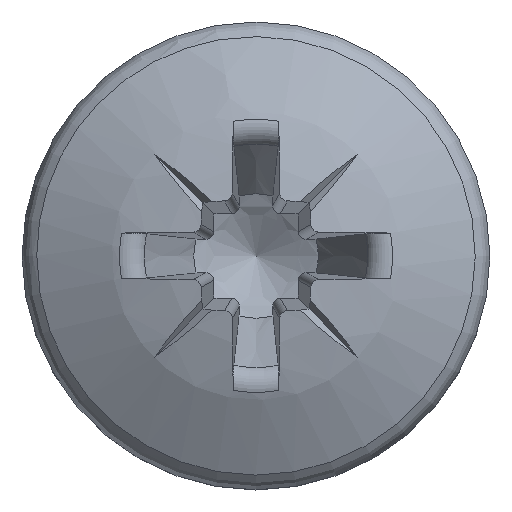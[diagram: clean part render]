
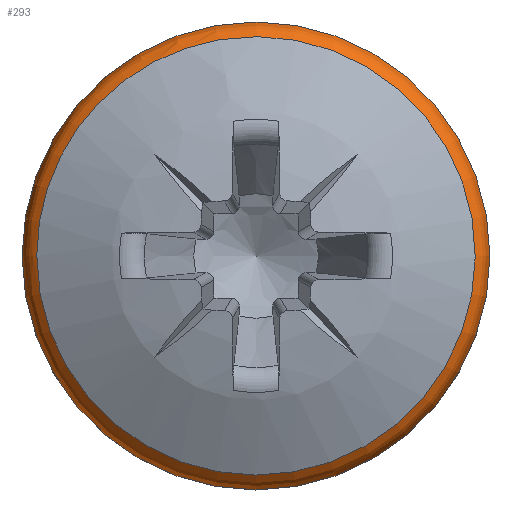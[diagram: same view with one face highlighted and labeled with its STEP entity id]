
A CAD part, top view. The second image highlights one B-rep face of the part: STEP entity #293.
In plain terms, the highlighted toroidal (fillet/blend) face has major radius 3.813 mm and minor radius 0.587 mm.
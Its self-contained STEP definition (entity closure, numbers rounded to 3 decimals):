
#215=TOROIDAL_SURFACE('',#1489,3.813,0.587);
#230=FACE_BOUND('',#466,.T.);
#231=FACE_BOUND('',#467,.T.);
#293=ADVANCED_FACE('',(#230,#231),#215,.T.);
#466=EDGE_LOOP('',(#827));
#467=EDGE_LOOP('',(#828));
#506=CIRCLE('',#1399,4.124);
#540=CIRCLE('',#1438,4.4);
#827=ORIENTED_EDGE('',*,*,#1165,.F.);
#828=ORIENTED_EDGE('',*,*,#1117,.F.);
#983=VERTEX_POINT('',#2826);
#1029=VERTEX_POINT('',#3144);
#1117=EDGE_CURVE('',#983,#983,#506,.T.);
#1165=EDGE_CURVE('',#1029,#1029,#540,.T.);
#1399=AXIS2_PLACEMENT_3D('',#2825,#1508,#1509);
#1438=AXIS2_PLACEMENT_3D('',#3143,#1586,#1587);
#1489=AXIS2_PLACEMENT_3D('',#3620,#1720,#1721);
#1508=DIRECTION('',(0.,0.,1.));
#1509=DIRECTION('',(-1.,0.,0.));
#1586=DIRECTION('',(0.,0.,-1.));
#1587=DIRECTION('',(-1.,0.,0.));
#1720=DIRECTION('',(0.,0.,-1.));
#1721=DIRECTION('',(-1.,0.,0.));
#2825=CARTESIAN_POINT('',(0.,0.,2.22));
#2826=CARTESIAN_POINT('',(-4.124,0.,2.22));
#3143=CARTESIAN_POINT('',(0.,0.,1.723));
#3144=CARTESIAN_POINT('',(-4.4,0.,1.723));
#3620=CARTESIAN_POINT('',(0.,0.,1.723));
